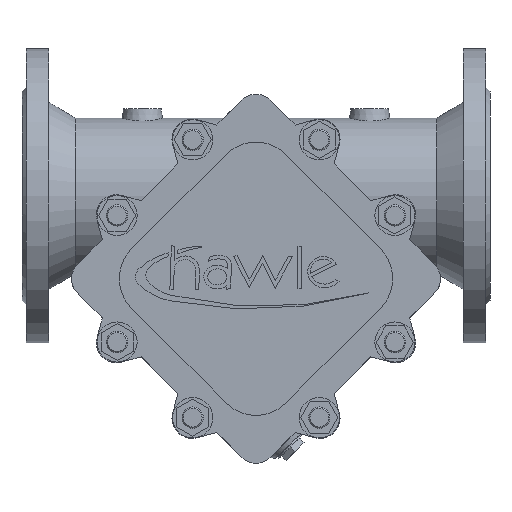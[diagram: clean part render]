
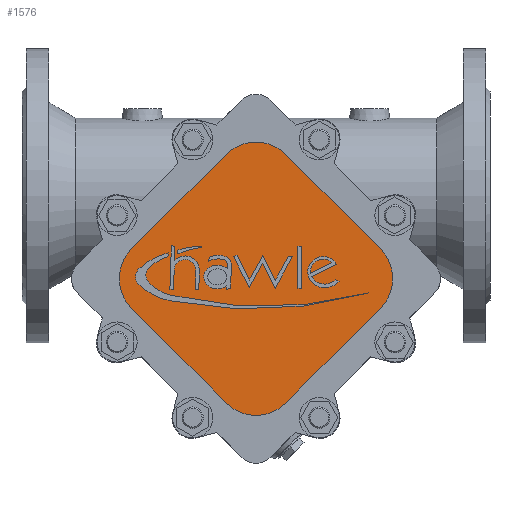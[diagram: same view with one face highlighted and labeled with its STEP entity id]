
A CAD part, front view. The second image highlights one B-rep face of the part: STEP entity #1576.
In plain terms, the highlighted planar face has unit normal (0, -1, 0).
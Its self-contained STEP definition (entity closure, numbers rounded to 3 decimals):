
#1576=ADVANCED_FACE('',(#3077),#3078,.T.);
#3077=FACE_OUTER_BOUND('',#4918,.T.);
#3078=PLANE('',#4919);
#4918=EDGE_LOOP('',(#7648,#7649,#7650,#7651,#7652,#7653,#7654,#7655,#7656,#7657));
#4919=AXIS2_PLACEMENT_3D('',#7658,#7659,#7660);
#7648=ORIENTED_EDGE('',*,*,#10836,.F.);
#7649=ORIENTED_EDGE('',*,*,#10837,.F.);
#7650=ORIENTED_EDGE('',*,*,#10564,.F.);
#7651=ORIENTED_EDGE('',*,*,#10809,.F.);
#7652=ORIENTED_EDGE('',*,*,#10185,.F.);
#7653=ORIENTED_EDGE('',*,*,#10794,.F.);
#7654=ORIENTED_EDGE('',*,*,#10838,.F.);
#7655=ORIENTED_EDGE('',*,*,#10839,.F.);
#7656=ORIENTED_EDGE('',*,*,#10208,.F.);
#7657=ORIENTED_EDGE('',*,*,#10076,.F.);
#7658=CARTESIAN_POINT('',(-175.,-106.0,-62.));
#7659=DIRECTION('',(0.0,-1.0,0.0));
#7660=DIRECTION('',(1.0,0.0,0.0));
#10076=EDGE_CURVE('',#11888,#11883,#11890,.T.);
#10185=EDGE_CURVE('',#12070,#12066,#12072,.T.);
#10208=EDGE_CURVE('',#11883,#12109,#12110,.T.);
#10564=EDGE_CURVE('',#12665,#12666,#12667,.T.);
#10794=EDGE_CURVE('',#12992,#12070,#12993,.T.);
#10809=EDGE_CURVE('',#12066,#12665,#13012,.T.);
#10836=EDGE_CURVE('',#13048,#11888,#13049,.T.);
#10837=EDGE_CURVE('',#12666,#13048,#13050,.T.);
#10838=EDGE_CURVE('',#13051,#12992,#13052,.T.);
#10839=EDGE_CURVE('',#12109,#13051,#13053,.T.);
#11883=VERTEX_POINT('',#14340);
#11888=VERTEX_POINT('',#14346);
#11890=CIRCLE('',#14349,31.5);
#12066=VERTEX_POINT('',#14588);
#12070=VERTEX_POINT('',#14593);
#12072=CIRCLE('',#14596,31.5);
#12109=VERTEX_POINT('',#14642);
#12110=CIRCLE('',#14643,31.5);
#12665=VERTEX_POINT('',#15446);
#12666=VERTEX_POINT('',#15447);
#12667=LINE('',#15448,#15449);
#12992=VERTEX_POINT('',#15869);
#12993=LINE('',#15870,#15871);
#13012=CIRCLE('',#15894,31.5);
#13048=VERTEX_POINT('',#15945);
#13049=LINE('',#15946,#15947);
#13050=CIRCLE('',#15948,31.5);
#13051=VERTEX_POINT('',#15949);
#13052=CIRCLE('',#15950,31.501);
#13053=LINE('',#15951,#15952);
#14340=CARTESIAN_POINT('',(-277.211,-106.0,-62.));
#14346=CARTESIAN_POINT('',(-267.985,-106.0,-84.274));
#14349=AXIS2_PLACEMENT_3D('',#17244,#17245,#17246);
#14588=CARTESIAN_POINT('',(-72.79,-106.0,-62.));
#14593=CARTESIAN_POINT('',(-82.016,-106.0,-39.726));
#14596=AXIS2_PLACEMENT_3D('',#17431,#17432,#17433);
#14642=CARTESIAN_POINT('',(-267.985,-106.0,-39.726));
#14643=AXIS2_PLACEMENT_3D('',#17464,#17465,#17466);
#15446=CARTESIAN_POINT('',(-82.016,-106.0,-84.274));
#15447=CARTESIAN_POINT('',(-152.726,-106.0,-154.985));
#15448=CARTESIAN_POINT('',(-152.726,-106.0,-154.985));
#15449=VECTOR('',#17895,1.0);
#15869=CARTESIAN_POINT('',(-152.726,-106.0,30.984));
#15870=CARTESIAN_POINT('',(-82.016,-106.0,-39.726));
#15871=VECTOR('',#18171,1.0);
#15894=AXIS2_PLACEMENT_3D('',#18188,#18189,#18190);
#15945=CARTESIAN_POINT('',(-197.274,-106.0,-154.985));
#15946=CARTESIAN_POINT('',(-267.985,-106.0,-84.274));
#15947=VECTOR('',#18215,1.0);
#15948=AXIS2_PLACEMENT_3D('',#18216,#18217,#18218);
#15949=CARTESIAN_POINT('',(-197.274,-106.0,30.984));
#15950=AXIS2_PLACEMENT_3D('',#18219,#18220,#18221);
#15951=CARTESIAN_POINT('',(-197.274,-106.0,30.984));
#15952=VECTOR('',#18222,1.0);
#17244=CARTESIAN_POINT('',(-245.711,-106.0,-62.));
#17245=DIRECTION('',(-0.0,1.0,0.0));
#17246=DIRECTION('',(1.0,0.0,0.0));
#17431=CARTESIAN_POINT('',(-104.29,-106.0,-62.));
#17432=DIRECTION('',(-0.0,1.0,0.0));
#17433=DIRECTION('',(1.0,0.0,0.0));
#17464=CARTESIAN_POINT('',(-245.711,-106.0,-62.));
#17465=DIRECTION('',(-0.0,1.0,0.0));
#17466=DIRECTION('',(1.0,0.0,0.0));
#17895=DIRECTION('',(-0.707,0.0,-0.707));
#18171=DIRECTION('',(0.707,0.0,-0.707));
#18188=CARTESIAN_POINT('',(-104.29,-106.0,-62.));
#18189=DIRECTION('',(-0.0,1.0,0.0));
#18190=DIRECTION('',(1.0,0.0,0.0));
#18215=DIRECTION('',(-0.707,0.0,0.707));
#18216=CARTESIAN_POINT('',(-175.,-106.0,-132.711));
#18217=DIRECTION('',(-0.0,1.0,0.0));
#18218=DIRECTION('',(1.0,0.0,0.0));
#18219=CARTESIAN_POINT('',(-175.,-106.0,8.709));
#18220=DIRECTION('',(-0.0,1.0,0.0));
#18221=DIRECTION('',(1.0,0.0,0.0));
#18222=DIRECTION('',(0.707,0.0,0.707));
